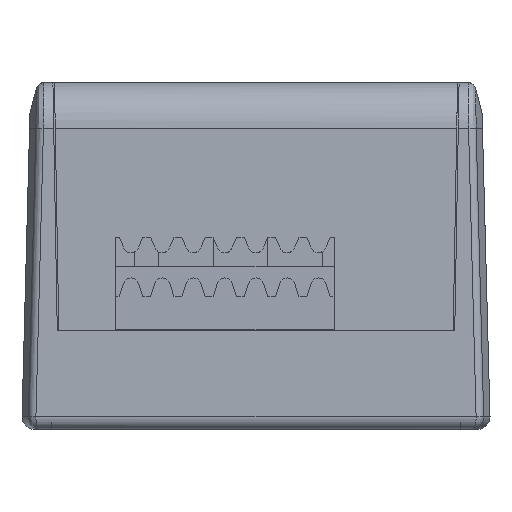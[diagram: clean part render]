
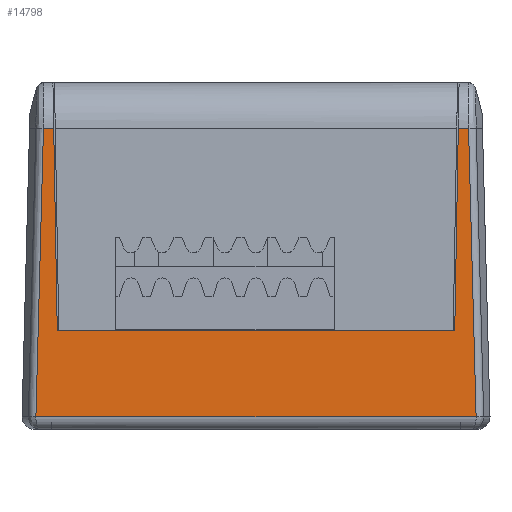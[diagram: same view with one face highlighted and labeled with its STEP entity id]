
A CAD part, left-side view. The second image highlights one B-rep face of the part: STEP entity #14798.
In plain terms, the highlighted planar face has unit normal (-1, 0, 0.026).
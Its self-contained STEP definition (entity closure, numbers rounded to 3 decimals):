
#361 = B_SPLINE_CURVE_WITH_KNOTS ( 'NONE', 3,
 ( #44990, #33757, #16173, #5262 ),
 .UNSPECIFIED., .F., .F.,
 ( 4, 4 ),
 ( 0., 1. ),
 .UNSPECIFIED. ) ;
#417 = CARTESIAN_POINT ( 'NONE',  ( -64.979, 15., 0.821 ) ) ;
#2054 = ORIENTED_EDGE ( 'NONE', *, *, #28058, .T. ) ;
#3239 = EDGE_CURVE ( 'NONE', #4790, #41800, #73635, .T. ) ;
#3412 = CARTESIAN_POINT ( 'NONE',  ( -64.835, 12.722, 6.3 ) ) ;
#3432 = CARTESIAN_POINT ( 'NONE',  ( -64.495, 0., 19.279 ) ) ;
#3502 = CARTESIAN_POINT ( 'NONE',  ( -64.835, 12.722, 6.3 ) ) ;
#3860 = VERTEX_POINT ( 'NONE', #54244 ) ;
#4790 = VERTEX_POINT ( 'NONE', #60350 ) ;
#5262 = CARTESIAN_POINT ( 'NONE',  ( -64.978, -14.088, 0.823 ) ) ;
#5281 = VECTOR ( 'NONE', #32224, 1000. ) ;
#5466 = VECTOR ( 'NONE', #48812, 1000. ) ;
#5575 = ORIENTED_EDGE ( 'NONE', *, *, #45931, .T. ) ;
#6768 = ORIENTED_EDGE ( 'NONE', *, *, #47819, .T. ) ;
#9887 = CARTESIAN_POINT ( 'NONE',  ( -64.495, 0., 19.279 ) ) ;
#11030 = VECTOR ( 'NONE', #14046, 1000. ) ;
#12821 = CARTESIAN_POINT ( 'NONE',  ( -64.979, 14.088, 0.821 ) ) ;
#12867 = VERTEX_POINT ( 'NONE', #44516 ) ;
#13379 = VECTOR ( 'NONE', #44207, 1000. ) ;
#13974 = DIRECTION ( 'NONE',  ( 0.026, 0.026, 0.999 ) ) ;
#14046 = DIRECTION ( 'NONE',  ( 0.026, 0.017, 1. ) ) ;
#14357 = DIRECTION ( 'NONE',  ( 0.026, 0., 1. ) ) ;
#14798 = ADVANCED_FACE ( 'NONE', ( #48432 ), #35326, .T. ) ;
#15384 = CARTESIAN_POINT ( 'NONE',  ( -64.495, 13.605, 19.268 ) ) ;
#16173 = CARTESIAN_POINT ( 'NONE',  ( -64.978, -14.088, 0.822 ) ) ;
#16200 = LINE ( 'NONE', #33422, #34810 ) ;
#16596 = CARTESIAN_POINT ( 'NONE',  ( -64.495, -13.605, 19.268 ) ) ;
#18086 = CARTESIAN_POINT ( 'NONE',  ( -65., 15., 0. ) ) ;
#18472 = CARTESIAN_POINT ( 'NONE',  ( -64.978, -14.088, 0.823 ) ) ;
#18762 = CARTESIAN_POINT ( 'NONE',  ( -64.835, 15., 6.3 ) ) ;
#19228 = ORIENTED_EDGE ( 'NONE', *, *, #30167, .T. ) ;
#24591 = VERTEX_POINT ( 'NONE', #31359 ) ;
#24832 = DIRECTION ( 'NONE',  ( -0.026, 0.013, -1. ) ) ;
#27355 = VERTEX_POINT ( 'NONE', #55723 ) ;
#27621 = CARTESIAN_POINT ( 'NONE',  ( -64.495, -13.605, 19.268 ) ) ;
#27815 = DIRECTION ( 'NONE',  ( -0.026, 0.017, -1. ) ) ;
#27955 = EDGE_CURVE ( 'NONE', #27355, #24591, #50291, .T. ) ;
#28058 = EDGE_CURVE ( 'NONE', #12867, #43963, #361, .T. ) ;
#30167 = EDGE_CURVE ( 'NONE', #67741, #24591, #67983, .T. ) ;
#31359 = CARTESIAN_POINT ( 'NONE',  ( -64.495, -13.605, 19.279 ) ) ;
#31805 = CARTESIAN_POINT ( 'NONE',  ( -64.979, 14.088, 0.821 ) ) ;
#32224 = DIRECTION ( 'NONE',  ( 0., 1., 0. ) ) ;
#32856 = EDGE_LOOP ( 'NONE', ( #73287, #45274, #70381, #6768, #54639, #2054, #48053, #19228, #50758, #50601, #60019, #5575 ) ) ;
#33279 = CARTESIAN_POINT ( 'NONE',  ( -64.495, 12.949, 19.279 ) ) ;
#33422 = CARTESIAN_POINT ( 'NONE',  ( -64.495, -12.949, 19.279 ) ) ;
#33450 = DIRECTION ( 'NONE',  ( 0.026, 0.011, 1. ) ) ;
#33757 = CARTESIAN_POINT ( 'NONE',  ( -64.978, -14.088, 0.821 ) ) ;
#33882 = EDGE_CURVE ( 'NONE', #43963, #67741, #58957, .T. ) ;
#34338 = VERTEX_POINT ( 'NONE', #65993 ) ;
#34451 = VERTEX_POINT ( 'NONE', #68221 ) ;
#34772 = CARTESIAN_POINT ( 'NONE',  ( -64.978, -14.088, 0.823 ) ) ;
#34810 = VECTOR ( 'NONE', #27815, 1000. ) ;
#35134 = VECTOR ( 'NONE', #57836, 1000. ) ;
#35326 = PLANE ( 'NONE',  #59386 ) ;
#35954 = CARTESIAN_POINT ( 'NONE',  ( -64.978, 14.088, 0.823 ) ) ;
#36344 = CARTESIAN_POINT ( 'NONE',  ( -64.978, 14.088, 0.822 ) ) ;
#37558 = VERTEX_POINT ( 'NONE', #12821 ) ;
#40776 = EDGE_CURVE ( 'NONE', #4790, #34338, #53678, .T. ) ;
#40806 = VERTEX_POINT ( 'NONE', #3412 ) ;
#41800 = VERTEX_POINT ( 'NONE', #33279 ) ;
#43150 = DIRECTION ( 'NONE',  ( -1., 0., 0.026 ) ) ;
#43963 = VERTEX_POINT ( 'NONE', #34772 ) ;
#44207 = DIRECTION ( 'NONE',  ( -0.026, 0.026, -0.999 ) ) ;
#44516 = CARTESIAN_POINT ( 'NONE',  ( -64.979, -14.088, 0.821 ) ) ;
#44990 = CARTESIAN_POINT ( 'NONE',  ( -64.979, -14.088, 0.821 ) ) ;
#45274 = ORIENTED_EDGE ( 'NONE', *, *, #40776, .T. ) ;
#45931 = EDGE_CURVE ( 'NONE', #40806, #41800, #49630, .T. ) ;
#47819 = EDGE_CURVE ( 'NONE', #34451, #37558, #60091, .T. ) ;
#48053 = ORIENTED_EDGE ( 'NONE', *, *, #33882, .T. ) ;
#48432 = FACE_OUTER_BOUND ( 'NONE', #32856, .T. ) ;
#48812 = DIRECTION ( 'NONE',  ( 0., -1., 0. ) ) ;
#49630 = LINE ( 'NONE', #3502, #11030 ) ;
#49915 = VECTOR ( 'NONE', #33450, 1000. ) ;
#50291 = LINE ( 'NONE', #3432, #5466 ) ;
#50601 = ORIENTED_EDGE ( 'NONE', *, *, #68501, .T. ) ;
#50758 = ORIENTED_EDGE ( 'NONE', *, *, #27955, .F. ) ;
#51814 = LINE ( 'NONE', #417, #35134 ) ;
#53300 = CARTESIAN_POINT ( 'NONE',  ( -64.495, 13.605, 19.279 ) ) ;
#53678 = LINE ( 'NONE', #53300, #63551 ) ;
#54244 = CARTESIAN_POINT ( 'NONE',  ( -64.835, -12.722, 6.3 ) ) ;
#54639 = ORIENTED_EDGE ( 'NONE', *, *, #71841, .F. ) ;
#54715 = CARTESIAN_POINT ( 'NONE',  ( -64.978, 14.088, 0.821 ) ) ;
#55615 = DIRECTION ( 'NONE',  ( 0., -1., 0. ) ) ;
#55723 = CARTESIAN_POINT ( 'NONE',  ( -64.495, -12.949, 19.279 ) ) ;
#57788 = VECTOR ( 'NONE', #55615, 1000. ) ;
#57836 = DIRECTION ( 'NONE',  ( 0., 1., 0. ) ) ;
#58522 = LINE ( 'NONE', #18762, #5281 ) ;
#58556 = EDGE_CURVE ( 'NONE', #3860, #40806, #58522, .T. ) ;
#58957 = LINE ( 'NONE', #18472, #60420 ) ;
#59386 = AXIS2_PLACEMENT_3D ( 'NONE', #18086, #43150, #14357 ) ;
#60019 = ORIENTED_EDGE ( 'NONE', *, *, #58556, .T. ) ;
#60091 = B_SPLINE_CURVE_WITH_KNOTS ( 'NONE', 3,
 ( #35954, #36344, #54715, #31805 ),
 .UNSPECIFIED., .F., .F.,
 ( 4, 4 ),
 ( 0., 1. ),
 .UNSPECIFIED. ) ;
#60350 = CARTESIAN_POINT ( 'NONE',  ( -64.495, 13.605, 19.279 ) ) ;
#60420 = VECTOR ( 'NONE', #13974, 1000. ) ;
#63551 = VECTOR ( 'NONE', #24832, 1000. ) ;
#65993 = CARTESIAN_POINT ( 'NONE',  ( -64.495, 13.605, 19.268 ) ) ;
#66758 = LINE ( 'NONE', #15384, #13379 ) ;
#67741 = VERTEX_POINT ( 'NONE', #27621 ) ;
#67983 = LINE ( 'NONE', #16596, #49915 ) ;
#68221 = CARTESIAN_POINT ( 'NONE',  ( -64.978, 14.088, 0.823 ) ) ;
#68501 = EDGE_CURVE ( 'NONE', #27355, #3860, #16200, .T. ) ;
#68799 = EDGE_CURVE ( 'NONE', #34338, #34451, #66758, .T. ) ;
#70381 = ORIENTED_EDGE ( 'NONE', *, *, #68799, .T. ) ;
#71841 = EDGE_CURVE ( 'NONE', #12867, #37558, #51814, .T. ) ;
#73287 = ORIENTED_EDGE ( 'NONE', *, *, #3239, .F. ) ;
#73635 = LINE ( 'NONE', #9887, #57788 ) ;
